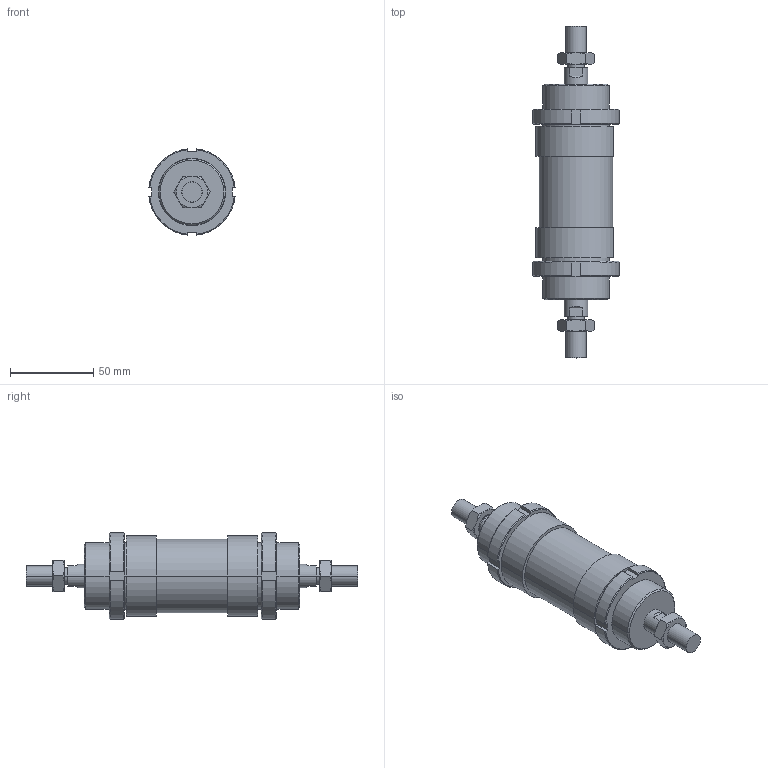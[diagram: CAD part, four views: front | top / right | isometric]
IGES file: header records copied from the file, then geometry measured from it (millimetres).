
Global section: file name: No Iges File Name specified; native system: AutoDesk Inventor R6.0; preprocessor: AutoDesk Inventor Iges Exporter R6.0; author: No Author specified; organization: No Organization specified; date: 20030403.072748; units: millimetre
Bounding box: 51.76 x 199 x 51.76 mm (x, y, z)
Volume: 217555 mm3; surface area: 47517.5 mm2
Topology: 6 solids, 6 shells, 182 faces, 424 edges, 264 vertices
Faces by surface type: plane 66, cone 52, bspline 30, cylinder 28, revolution 6
